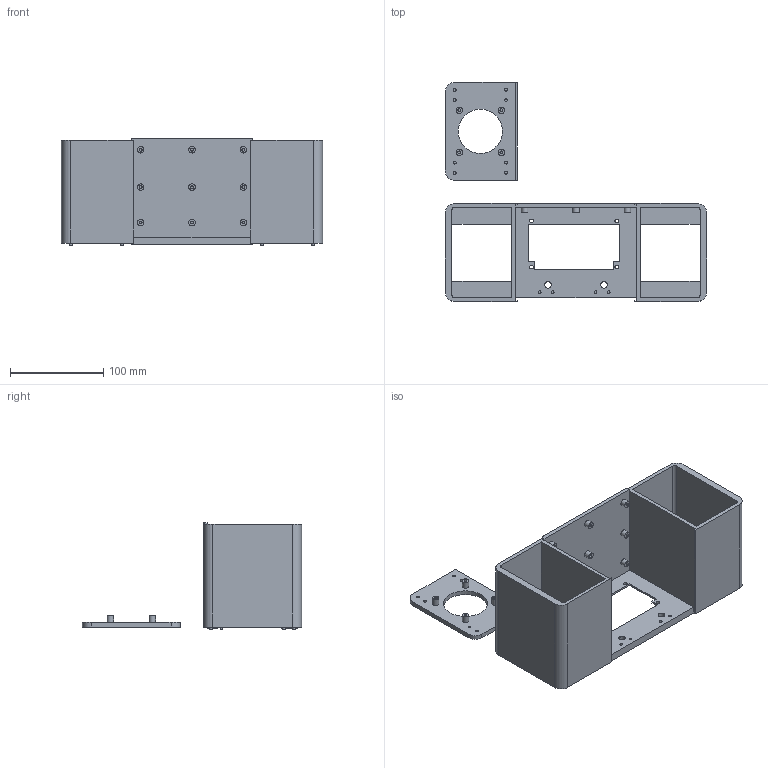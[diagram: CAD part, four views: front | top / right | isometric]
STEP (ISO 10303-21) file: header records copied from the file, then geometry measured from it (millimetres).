
FILE_DESCRIPTION(/* description */ (''),/* implementation_level */ '2;1');
FILE_NAME(/* name */ 'front.step',/* time_stamp */ '2026-10-13T18:14:25+02:00',/* author */ (''),/* organization */ (''),/* preprocessor_version */ 'ST-DEVELOPER v20.2',/* originating_system */ 'Autodesk Translation Framework v15.15.0.0',/* authorisation */ '');
FILE_SCHEMA (('AUTOMOTIVE_DESIGN { 1 0 10303 214 3 1 1 }'));
Length unit declared in the file: millimetre
Products named in the file (1): 2026-10-08-07-20-58-243
Bounding box: 280 x 235 x 114.5 mm (x, y, z)
Volume: 515104.8 mm3; surface area: 240238.3 mm2
Topology: 5 solids, 5 shells, 219 faces, 471 edges, 314 vertices
Faces by surface type: plane 144, cylinder 75
Full cylindrical faces by diameter (mm): 2.8 x16, 3 x25, 4 x4, 7 x15, 47.5 x1
Entity records: 6031 total; most frequent: DIRECTION 1061, CARTESIAN_POINT 1005, ORIENTED_EDGE 942, EDGE_CURVE 471, AXIS2_PLACEMENT_3D 370, LINE 321, VECTOR 321, VERTEX_POINT 314
